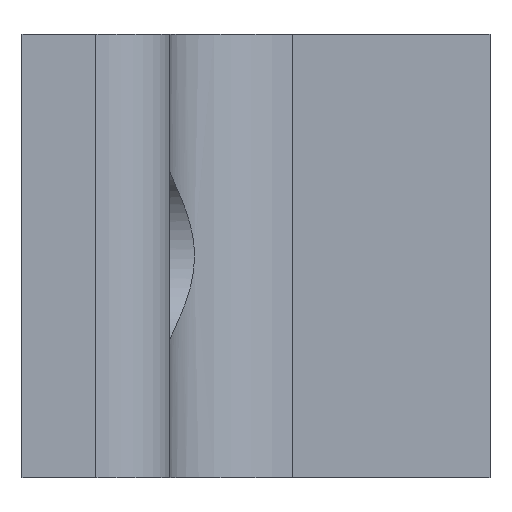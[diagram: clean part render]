
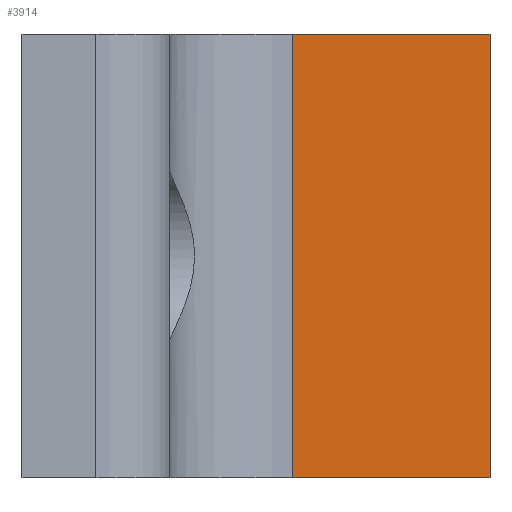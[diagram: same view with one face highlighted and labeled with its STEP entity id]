
A CAD part, left-side view. The second image highlights one B-rep face of the part: STEP entity #3914.
In plain terms, the highlighted planar face has unit normal (-1, 0, 0).
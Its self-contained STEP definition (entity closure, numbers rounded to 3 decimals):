
#73 = DIRECTION ( 'NONE',  ( 1., 0., 0. ) ) ;
#194 = CARTESIAN_POINT ( 'NONE',  ( 19.5, -9.5, 9. ) ) ;
#257 = VERTEX_POINT ( 'NONE', #4589 ) ;
#259 = CARTESIAN_POINT ( 'NONE',  ( 19.5, -9.5, -9. ) ) ;
#396 = CARTESIAN_POINT ( 'NONE',  ( 19.5, -1.5, 9. ) ) ;
#530 = EDGE_CURVE ( 'NONE', #3915, #257, #1798, .T. ) ;
#877 = ORIENTED_EDGE ( 'NONE', *, *, #3685, .T. ) ;
#1322 = CARTESIAN_POINT ( 'NONE',  ( 19.5, -9.5, -9. ) ) ;
#1395 = FACE_OUTER_BOUND ( 'NONE', #5139, .T. ) ;
#1457 = VECTOR ( 'NONE', #3396, 1000. ) ;
#1798 = LINE ( 'NONE', #259, #2049 ) ;
#2026 = DIRECTION ( 'NONE',  ( 0., 0., -1. ) ) ;
#2049 = VECTOR ( 'NONE', #4328, 1000. ) ;
#2358 = EDGE_CURVE ( 'NONE', #3915, #3107, #2992, .T. ) ;
#2476 = CARTESIAN_POINT ( 'NONE',  ( 19.5, -9.5, -9. ) ) ;
#2670 = CARTESIAN_POINT ( 'NONE',  ( 19.5, -1.5, -9. ) ) ;
#2768 = ORIENTED_EDGE ( 'NONE', *, *, #530, .F. ) ;
#2928 = DIRECTION ( 'NONE',  ( 0., 0., 1. ) ) ;
#2970 = ORIENTED_EDGE ( 'NONE', *, *, #3671, .T. ) ;
#2992 = LINE ( 'NONE', #1322, #4984 ) ;
#3104 = VECTOR ( 'NONE', #4221, 1000. ) ;
#3107 = VERTEX_POINT ( 'NONE', #4198 ) ;
#3307 = AXIS2_PLACEMENT_3D ( 'NONE', #2476, #73, #2026 ) ;
#3315 = CARTESIAN_POINT ( 'NONE',  ( 19.5, -9.5, -9. ) ) ;
#3396 = DIRECTION ( 'NONE',  ( 0., 1., 0. ) ) ;
#3399 = ORIENTED_EDGE ( 'NONE', *, *, #2358, .T. ) ;
#3428 = VERTEX_POINT ( 'NONE', #396 ) ;
#3671 = EDGE_CURVE ( 'NONE', #3428, #257, #4271, .T. ) ;
#3685 = EDGE_CURVE ( 'NONE', #3107, #3428, #4593, .T. ) ;
#3914 = ADVANCED_FACE ( 'NONE', ( #1395 ), #4061, .F. ) ;
#3915 = VERTEX_POINT ( 'NONE', #3315 ) ;
#4061 = PLANE ( 'NONE',  #3307 ) ;
#4198 = CARTESIAN_POINT ( 'NONE',  ( 19.5, -9.5, 9. ) ) ;
#4221 = DIRECTION ( 'NONE',  ( 0., 0., -1. ) ) ;
#4271 = LINE ( 'NONE', #2670, #3104 ) ;
#4328 = DIRECTION ( 'NONE',  ( 0., 1., 0. ) ) ;
#4589 = CARTESIAN_POINT ( 'NONE',  ( 19.5, -1.5, -9. ) ) ;
#4593 = LINE ( 'NONE', #194, #1457 ) ;
#4984 = VECTOR ( 'NONE', #2928, 1000. ) ;
#5139 = EDGE_LOOP ( 'NONE', ( #877, #2970, #2768, #3399 ) ) ;
